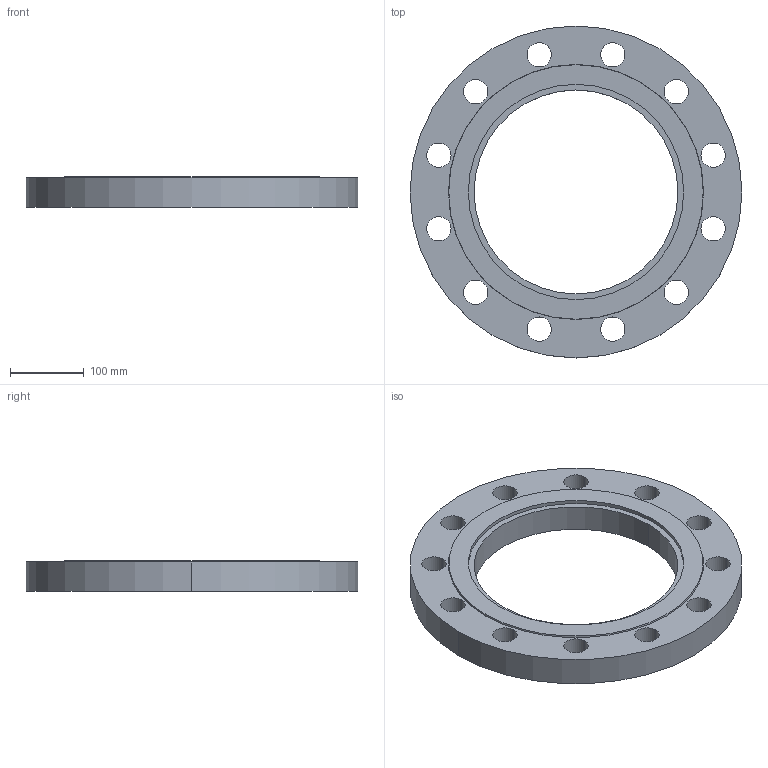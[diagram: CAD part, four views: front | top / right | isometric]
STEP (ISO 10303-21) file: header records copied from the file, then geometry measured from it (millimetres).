
FILE_DESCRIPTION (( 'STEP AP214' ), '1' );
FILE_NAME ('PN40 DN250 Type 01 - Type G Face.STEP', '2019-01-05T16:39:15', ( '' ), ( '' ), 'SwSTEP 2.0', 'SolidWorks 2019', '' );
FILE_SCHEMA (( 'AUTOMOTIVE_DESIGN' ));
Length unit declared in the file: millimetre
Products named in the file (1): PN40 DN250 Type 01 - Type G Face
Bounding box: 450 x 450 x 42 mm (x, y, z)
Volume: 3582015.5 mm3; surface area: 322327.2 mm2
Topology: 1 solids, 1 shells, 36 faces, 96 edges, 64 vertices
Faces by surface type: cylinder 30, plane 4, cone 2
Entity records: 1250 total; most frequent: DIRECTION 234, CARTESIAN_POINT 197, ORIENTED_EDGE 192, AXIS2_PLACEMENT_3D 101, EDGE_CURVE 96, CIRCLE 64, EDGE_LOOP 64, VERTEX_POINT 64
